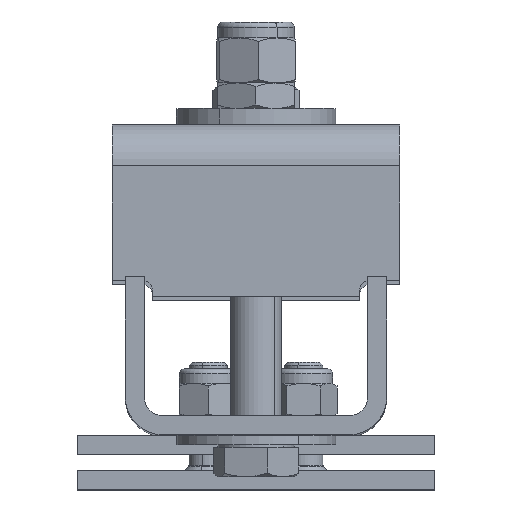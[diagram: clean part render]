
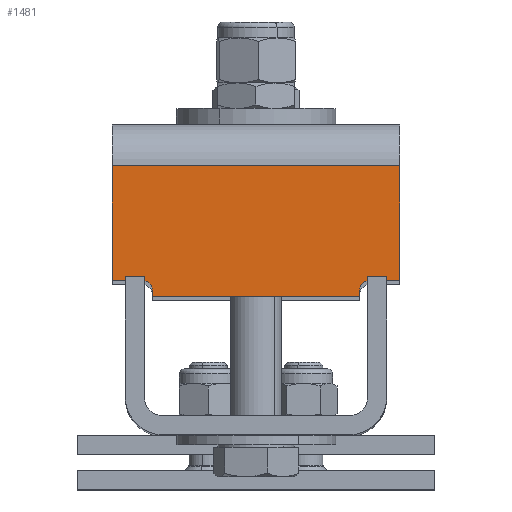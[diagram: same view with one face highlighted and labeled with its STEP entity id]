
A CAD part, top view. The second image highlights one B-rep face of the part: STEP entity #1481.
In plain terms, the highlighted planar face has unit normal (0, 0, 1) as drawn and (1, 0, 0) by its records, which use the part's own axes.
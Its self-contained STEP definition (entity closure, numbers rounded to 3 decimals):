
#1138 = AXIS2_PLACEMENT_3D ( 'NONE', #3645, #3643, #3642 ) ;
#1282 = AXIS2_PLACEMENT_3D ( 'NONE', #3627, #3626, #3625 ) ;
#1481 = ADVANCED_FACE ( 'NONE', ( #10890 ), #4192, .T. ) ;
#2208 = CARTESIAN_POINT ( 'NONE',  ( 10., 41., 90. ) ) ;
#2216 = CARTESIAN_POINT ( 'NONE',  ( 10., 41., 0. ) ) ;
#2223 = CARTESIAN_POINT ( 'NONE',  ( 10., 5., 0. ) ) ;
#2224 = CARTESIAN_POINT ( 'NONE',  ( 10., 2., 77.5 ) ) ;
#2225 = CARTESIAN_POINT ( 'NONE',  ( 10., 5., 90. ) ) ;
#2228 = CARTESIAN_POINT ( 'NONE',  ( 10., 0., 12.5 ) ) ;
#2231 = CARTESIAN_POINT ( 'NONE',  ( 10., 5., 80.5 ) ) ;
#2232 = CARTESIAN_POINT ( 'NONE',  ( 10., 0., 77.5 ) ) ;
#2233 = CARTESIAN_POINT ( 'NONE',  ( 10., 2., 12.5 ) ) ;
#2238 = CARTESIAN_POINT ( 'NONE',  ( 10., 5., 9.5 ) ) ;
#2719 = EDGE_LOOP ( 'NONE', ( #2924, #2862, #2865, #5585, #2846, #2978, #2984, #2993, #2989, #2988 ) ) ;
#2846 = ORIENTED_EDGE ( 'NONE', *, *, #9312, .F. ) ;
#2862 = ORIENTED_EDGE ( 'NONE', *, *, #9309, .T. ) ;
#2865 = ORIENTED_EDGE ( 'NONE', *, *, #9310, .T. ) ;
#2924 = ORIENTED_EDGE ( 'NONE', *, *, #9308, .T. ) ;
#2978 = ORIENTED_EDGE ( 'NONE', *, *, #9313, .T. ) ;
#2984 = ORIENTED_EDGE ( 'NONE', *, *, #9314, .T. ) ;
#2988 = ORIENTED_EDGE ( 'NONE', *, *, #9306, .T. ) ;
#2989 = ORIENTED_EDGE ( 'NONE', *, *, #9316, .T. ) ;
#2993 = ORIENTED_EDGE ( 'NONE', *, *, #9315, .T. ) ;
#3625 = DIRECTION ( 'NONE',  ( 0., 0., 1. ) ) ;
#3626 = DIRECTION ( 'NONE',  ( -1., 0., 0. ) ) ;
#3627 = CARTESIAN_POINT ( 'NONE',  ( 10., 2., 80.5 ) ) ;
#3633 = DIRECTION ( 'NONE',  ( 0., 0., -1. ) ) ;
#3634 = CARTESIAN_POINT ( 'NONE',  ( 10., 5., 90. ) ) ;
#3636 = DIRECTION ( 'NONE',  ( 0., -1., 0. ) ) ;
#3637 = DIRECTION ( 'NONE',  ( 0., 0., -1. ) ) ;
#3638 = CARTESIAN_POINT ( 'NONE',  ( 10., 2., 77.5 ) ) ;
#3639 = CARTESIAN_POINT ( 'NONE',  ( 10., 41., 90. ) ) ;
#3640 = DIRECTION ( 'NONE',  ( 0., -1., 0. ) ) ;
#3641 = CARTESIAN_POINT ( 'NONE',  ( 10., 41., 0. ) ) ;
#3642 = DIRECTION ( 'NONE',  ( 0., 0., 1. ) ) ;
#3643 = DIRECTION ( 'NONE',  ( -1., 0., 0. ) ) ;
#3645 = CARTESIAN_POINT ( 'NONE',  ( 10., 2., 9.5 ) ) ;
#3646 = CARTESIAN_POINT ( 'NONE',  ( 10., 41., 90. ) ) ;
#3649 = DIRECTION ( 'NONE',  ( 0., -1., 0. ) ) ;
#3650 = DIRECTION ( 'NONE',  ( 0., 1., 0. ) ) ;
#3651 = CARTESIAN_POINT ( 'NONE',  ( 10., 0., 12.5 ) ) ;
#3653 = DIRECTION ( 'NONE',  ( 0., 0., -1. ) ) ;
#3654 = CARTESIAN_POINT ( 'NONE',  ( 10., 5., 9.5 ) ) ;
#3655 = CARTESIAN_POINT ( 'NONE',  ( 10., 0., 90. ) ) ;
#3664 = DIRECTION ( 'NONE',  ( 0., 0., -1. ) ) ;
#4192 = PLANE ( 'NONE',  #8846 ) ;
#4462 = DIRECTION ( 'NONE',  ( 1., 0., 0. ) ) ;
#4473 = CARTESIAN_POINT ( 'NONE',  ( 10., 41., 90. ) ) ;
#5082 = DIRECTION ( 'NONE',  ( 0., 1., 0. ) ) ;
#5585 = ORIENTED_EDGE ( 'NONE', *, *, #9311, .F. ) ;
#6806 = VECTOR ( 'NONE', #3649, 1000. ) ;
#6808 = LINE ( 'NONE', #3638, #6806 ) ;
#6809 = VECTOR ( 'NONE', #3633, 1000. ) ;
#6810 = CIRCLE ( 'NONE', #1282, 3. ) ;
#6811 = VECTOR ( 'NONE', #3636, 1000. ) ;
#6812 = LINE ( 'NONE', #3634, #6809 ) ;
#6813 = VECTOR ( 'NONE', #3637, 1000. ) ;
#6815 = VECTOR ( 'NONE', #3640, 1000. ) ;
#6816 = LINE ( 'NONE', #3639, #6813 ) ;
#6817 = VECTOR ( 'NONE', #3664, 1000. ) ;
#6818 = LINE ( 'NONE', #3641, #6815 ) ;
#6819 = LINE ( 'NONE', #3654, #6817 ) ;
#6820 = VECTOR ( 'NONE', #3650, 1000. ) ;
#6821 = CIRCLE ( 'NONE', #1138, 3. ) ;
#6823 = LINE ( 'NONE', #3651, #6820 ) ;
#6824 = VECTOR ( 'NONE', #3653, 1000. ) ;
#6825 = LINE ( 'NONE', #3646, #6811 ) ;
#6827 = LINE ( 'NONE', #3655, #6824 ) ;
#8846 = AXIS2_PLACEMENT_3D ( 'NONE', #4473, #4462, #5082 ) ;
#9306 = EDGE_CURVE ( 'NONE', #10018, #10021, #6827, .T. ) ;
#9308 = EDGE_CURVE ( 'NONE', #10021, #10020, #6823, .T. ) ;
#9309 = EDGE_CURVE ( 'NONE', #10020, #10027, #6821, .T. ) ;
#9310 = EDGE_CURVE ( 'NONE', #10027, #10010, #6819, .T. ) ;
#9311 = EDGE_CURVE ( 'NONE', #10003, #10010, #6818, .T. ) ;
#9312 = EDGE_CURVE ( 'NONE', #9997, #10003, #6816, .T. ) ;
#9313 = EDGE_CURVE ( 'NONE', #9997, #10019, #6825, .T. ) ;
#9314 = EDGE_CURVE ( 'NONE', #10019, #10017, #6812, .T. ) ;
#9315 = EDGE_CURVE ( 'NONE', #10017, #10011, #6810, .T. ) ;
#9316 = EDGE_CURVE ( 'NONE', #10011, #10018, #6808, .T. ) ;
#9997 = VERTEX_POINT ( 'NONE', #2208 ) ;
#10003 = VERTEX_POINT ( 'NONE', #2216 ) ;
#10010 = VERTEX_POINT ( 'NONE', #2223 ) ;
#10011 = VERTEX_POINT ( 'NONE', #2224 ) ;
#10017 = VERTEX_POINT ( 'NONE', #2231 ) ;
#10018 = VERTEX_POINT ( 'NONE', #2232 ) ;
#10019 = VERTEX_POINT ( 'NONE', #2225 ) ;
#10020 = VERTEX_POINT ( 'NONE', #2233 ) ;
#10021 = VERTEX_POINT ( 'NONE', #2228 ) ;
#10027 = VERTEX_POINT ( 'NONE', #2238 ) ;
#10890 = FACE_OUTER_BOUND ( 'NONE', #2719, .T. ) ;
